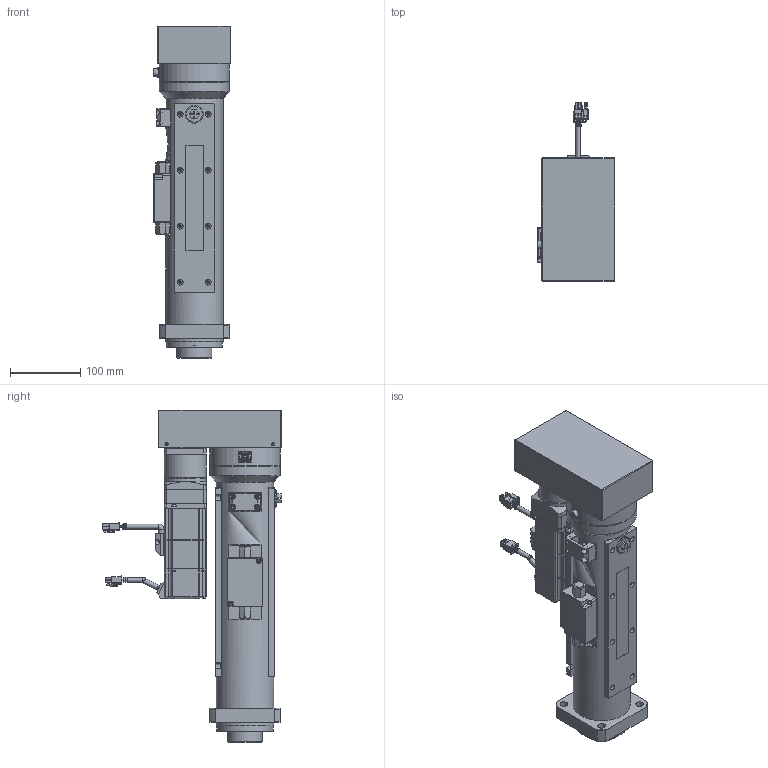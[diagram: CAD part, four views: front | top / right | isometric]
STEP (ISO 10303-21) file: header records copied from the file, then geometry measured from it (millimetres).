
FILE_DESCRIPTION( ('This file contains a STEP AP42 implementation' ,'as created by ZW3D STEP Interface translator.') ,'2;1' );
FILE_NAME( 'OACIS-DC-P003-200-235-A6_V20.51.stp' ,'26 210.145655', (''), ('ZWCAD Software Co.'), 'Version 1.0', 'ZW3D to STEP translator', '' );
FILE_SCHEMA(('AUTOMOTIVE_DESIGN { 1 0 10303 214 1 1 1 1 }'));
Length unit declared in the file: millimetre
Products named in the file (1): 0
Bounding box: 110.7 x 255.3 x 474 mm (x, y, z)
Volume: 2945478.6 mm3; surface area: 688550.9 mm2
Topology: 33 solids, 42 shells, 1892 faces, 4910 edges, 3211 vertices
Faces by surface type: plane 951, cylinder 557, cone 269, torus 64, bspline 26, sphere 25
Full cylindrical faces by diameter (mm): 1 x17, 1.567 x4, 1.754 x2, 1.755 x2, 1.82 x4, 2 x5, 2.2 x4, 2.5 x8, 2.6 x12, 3.2 x4, 3.242 x4, 3.3 x64, 4.134 x6, 4.2 x20, 4.3 x14, 4.5 x16, 4.917 x4, 5 x26, 5.5 x12, 6 x4, 6.5 x10, 6.6 x6, 7 x6, 7.2 x1, 8 x18, 8.5 x2, 9 x4, 10.5 x1, 11 x4, 12 x3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
Entity records: 62685 total; most frequent: CARTESIAN_POINT 13316, DIRECTION 10021, ORIENTED_EDGE 9654, EDGE_CURVE 4827, AXIS2_PLACEMENT_3D 3626, VERTEX_POINT 3211, VECTOR 2769, LINE 2769
